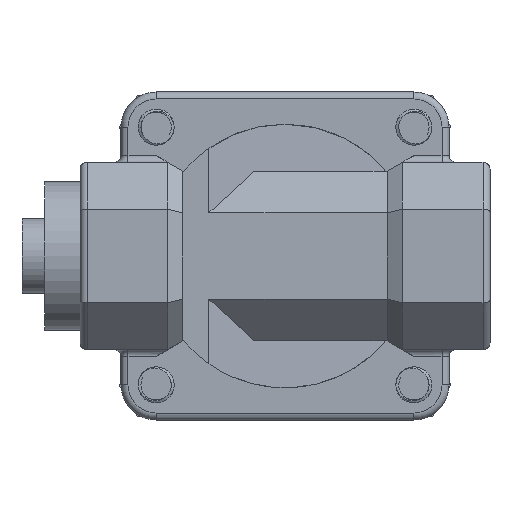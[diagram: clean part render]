
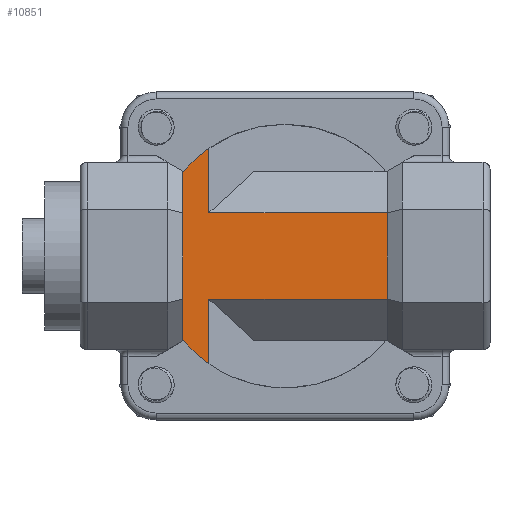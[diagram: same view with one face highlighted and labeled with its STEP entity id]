
A CAD part, front view. The second image highlights one B-rep face of the part: STEP entity #10851.
In plain terms, the highlighted planar face has unit normal (0, -1, 0).
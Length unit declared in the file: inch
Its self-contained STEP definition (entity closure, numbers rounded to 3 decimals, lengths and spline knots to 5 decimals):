
#148 = AXIS2_PLACEMENT_3D ( 'NONE', #26284, #28258, #21187 ) ;
#1203 = DIRECTION ( 'NONE',  ( 1., 0., 0. ) ) ;
#1238 = CIRCLE ( 'NONE', #19597, 0.886 ) ;
#1395 = CARTESIAN_POINT ( 'NONE',  ( 0.686, -1.35811, -0.29061 ) ) ;
#1610 = VERTEX_POINT ( 'NONE', #5954 ) ;
#1924 = VERTEX_POINT ( 'NONE', #18408 ) ;
#2217 = EDGE_CURVE ( 'NONE', #16183, #11892, #3961, .T. ) ;
#2258 = EDGE_CURVE ( 'NONE', #1924, #9072, #29268, .T. ) ;
#2777 = AXIS2_PLACEMENT_3D ( 'NONE', #31295, #8783, #11717 ) ;
#3138 = ORIENTED_EDGE ( 'NONE', *, *, #2258, .F. ) ;
#3255 = EDGE_CURVE ( 'NONE', #1924, #5373, #21427, .T. ) ;
#3412 = EDGE_CURVE ( 'NONE', #4576, #16183, #26843, .T. ) ;
#3483 = EDGE_CURVE ( 'NONE', #4775, #14719, #14663, .T. ) ;
#3682 = DIRECTION ( 'NONE',  ( 0., 0., -1. ) ) ;
#3961 = LINE ( 'NONE', #18244, #30430 ) ;
#4576 = VERTEX_POINT ( 'NONE', #26645 ) ;
#4775 = VERTEX_POINT ( 'NONE', #6508 ) ;
#5373 = VERTEX_POINT ( 'NONE', #14513 ) ;
#5668 = EDGE_CURVE ( 'NONE', #11892, #19291, #9195, .T. ) ;
#5680 = VECTOR ( 'NONE', #11713, 39.37008 ) ;
#5910 = CIRCLE ( 'NONE', #148, 0.886 ) ;
#5954 = CARTESIAN_POINT ( 'NONE',  ( -0.686, -1.35811, -0.56071 ) ) ;
#6508 = CARTESIAN_POINT ( 'NONE',  ( -0.51112, -1.35811, 0.29061 ) ) ;
#6841 = ORIENTED_EDGE ( 'NONE', *, *, #11895, .T. ) ;
#7051 = ORIENTED_EDGE ( 'NONE', *, *, #3483, .T. ) ;
#8432 = CARTESIAN_POINT ( 'NONE',  ( -2.46234, -1.35811, 0.29061 ) ) ;
#8783 = DIRECTION ( 'NONE',  ( 0., -1., 0. ) ) ;
#8834 = VECTOR ( 'NONE', #16973, 39.37008 ) ;
#9072 = VERTEX_POINT ( 'NONE', #31823 ) ;
#9195 = LINE ( 'NONE', #27096, #21479 ) ;
#10759 = CARTESIAN_POINT ( 'NONE',  ( -0.686, -1.35811, 0. ) ) ;
#10851 = ADVANCED_FACE ( 'Defeatured_0_46', ( #26210 ), #16496, .T. ) ;
#11400 = DIRECTION ( 'NONE',  ( 0., 0., -1. ) ) ;
#11642 = EDGE_LOOP ( 'NONE', ( #17371, #26546, #22172, #7051, #6841, #3138, #19134, #16786, #19821, #14958 ) ) ;
#11713 = DIRECTION ( 'NONE',  ( 0., 0., 1. ) ) ;
#11717 = DIRECTION ( 'NONE',  ( 0., 0., -1. ) ) ;
#11892 = VERTEX_POINT ( 'NONE', #1395 ) ;
#11895 = EDGE_CURVE ( 'NONE', #14719, #9072, #1238, .T. ) ;
#11964 = DIRECTION ( 'NONE',  ( 0., 0., 1. ) ) ;
#12111 = EDGE_CURVE ( 'NONE', #1610, #5373, #26216, .T. ) ;
#12559 = VECTOR ( 'NONE', #32203, 39.37008 ) ;
#13280 = VECTOR ( 'NONE', #29001, 39.37008 ) ;
#13980 = DIRECTION ( 'NONE',  ( 1., 0., 0. ) ) ;
#14194 = CARTESIAN_POINT ( 'NONE',  ( 0., -1.35811, 0. ) ) ;
#14346 = CARTESIAN_POINT ( 'NONE',  ( -0.51112, -1.35811, 0. ) ) ;
#14513 = CARTESIAN_POINT ( 'NONE',  ( -0.686, -1.35811, -0.29061 ) ) ;
#14663 = LINE ( 'NONE', #14346, #8834 ) ;
#14719 = VERTEX_POINT ( 'NONE', #29213 ) ;
#14958 = ORIENTED_EDGE ( 'NONE', *, *, #3412, .T. ) ;
#15133 = VECTOR ( 'NONE', #3682, 39.37008 ) ;
#16183 = VERTEX_POINT ( 'NONE', #17846 ) ;
#16496 = PLANE ( 'NONE',  #2777 ) ;
#16786 = ORIENTED_EDGE ( 'NONE', *, *, #12111, .F. ) ;
#16973 = DIRECTION ( 'NONE',  ( 0., 0., 1. ) ) ;
#17371 = ORIENTED_EDGE ( 'NONE', *, *, #2217, .T. ) ;
#17846 = CARTESIAN_POINT ( 'NONE',  ( -0.51112, -1.35811, -0.29061 ) ) ;
#18244 = CARTESIAN_POINT ( 'NONE',  ( -2.46234, -1.35811, -0.29061 ) ) ;
#18408 = CARTESIAN_POINT ( 'NONE',  ( -0.686, -1.35811, 0.29061 ) ) ;
#18967 = CARTESIAN_POINT ( 'NONE',  ( -0.686, -1.35811, 0. ) ) ;
#19134 = ORIENTED_EDGE ( 'NONE', *, *, #3255, .T. ) ;
#19291 = VERTEX_POINT ( 'NONE', #30293 ) ;
#19597 = AXIS2_PLACEMENT_3D ( 'NONE', #14194, #23911, #11400 ) ;
#19606 = CARTESIAN_POINT ( 'NONE',  ( -0.51112, -1.35811, 0. ) ) ;
#19821 = ORIENTED_EDGE ( 'NONE', *, *, #26149, .T. ) ;
#21187 = DIRECTION ( 'NONE',  ( 0., 0., -1. ) ) ;
#21427 = LINE ( 'NONE', #10759, #15133 ) ;
#21479 = VECTOR ( 'NONE', #11964, 39.37008 ) ;
#22172 = ORIENTED_EDGE ( 'NONE', *, *, #30606, .F. ) ;
#22809 = VECTOR ( 'NONE', #1203, 39.37008 ) ;
#23911 = DIRECTION ( 'NONE',  ( 0., -1., 0. ) ) ;
#26149 = EDGE_CURVE ( 'NONE', #1610, #4576, #5910, .T. ) ;
#26210 = FACE_OUTER_BOUND ( 'NONE', #11642, .T. ) ;
#26216 = LINE ( 'NONE', #18967, #13280 ) ;
#26284 = CARTESIAN_POINT ( 'NONE',  ( 0., -1.35811, 0. ) ) ;
#26546 = ORIENTED_EDGE ( 'NONE', *, *, #5668, .T. ) ;
#26645 = CARTESIAN_POINT ( 'NONE',  ( -0.51112, -1.35811, -0.72371 ) ) ;
#26843 = LINE ( 'NONE', #19606, #5680 ) ;
#27096 = CARTESIAN_POINT ( 'NONE',  ( 0.686, -1.35811, 0.315 ) ) ;
#28258 = DIRECTION ( 'NONE',  ( 0., -1., 0. ) ) ;
#28820 = LINE ( 'NONE', #8432, #22809 ) ;
#29001 = DIRECTION ( 'NONE',  ( 0., 0., 1. ) ) ;
#29213 = CARTESIAN_POINT ( 'NONE',  ( -0.51112, -1.35811, 0.72371 ) ) ;
#29268 = LINE ( 'NONE', #29750, #12559 ) ;
#29750 = CARTESIAN_POINT ( 'NONE',  ( -0.686, -1.35811, 0. ) ) ;
#30293 = CARTESIAN_POINT ( 'NONE',  ( 0.686, -1.35811, 0.29061 ) ) ;
#30430 = VECTOR ( 'NONE', #13980, 39.37008 ) ;
#30606 = EDGE_CURVE ( 'NONE', #4775, #19291, #28820, .T. ) ;
#31295 = CARTESIAN_POINT ( 'NONE',  ( -2.46234, -1.35811, 0.29061 ) ) ;
#31823 = CARTESIAN_POINT ( 'NONE',  ( -0.686, -1.35811, 0.56071 ) ) ;
#32203 = DIRECTION ( 'NONE',  ( 0., 0., 1. ) ) ;
